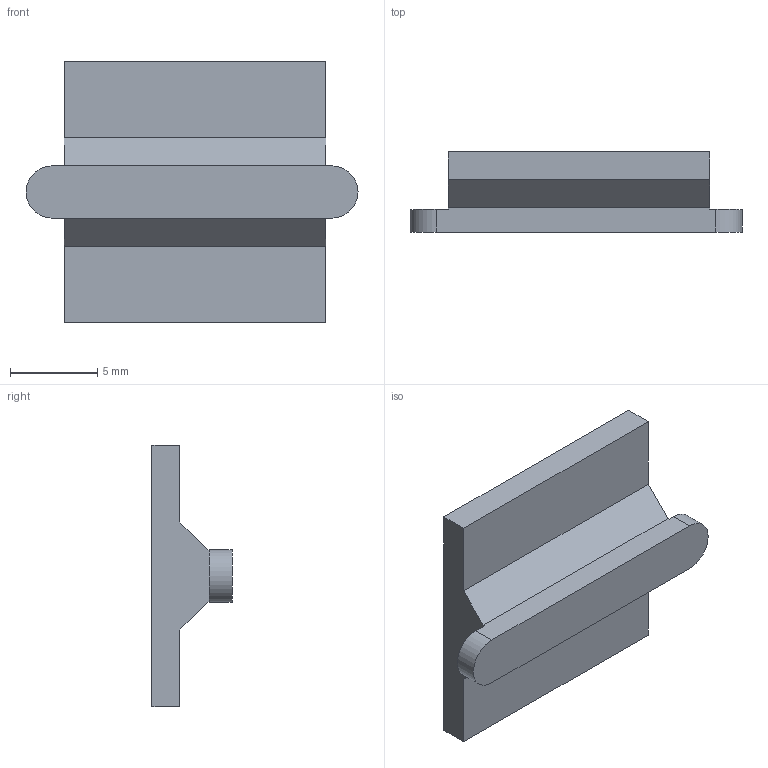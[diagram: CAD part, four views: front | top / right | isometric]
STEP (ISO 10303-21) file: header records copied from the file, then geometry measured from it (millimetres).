
FILE_DESCRIPTION (( 'STEP AP214' ), '1' );
FILE_NAME ('Block, Interface, Chip to TEC, Desktop, Biolink R02.STEP', '2026-07-28T14:54:40', ( '' ), ( '' ), 'SwSTEP 2.0', 'SolidWorks 2025', '' );
FILE_SCHEMA (( 'AUTOMOTIVE_DESIGN' ));
Length unit declared in the file: millimetre
Products named in the file (1): Block, Interface, Chip to TEC, Desktop, Biolink R02
Bounding box: 19.05 x 4.6 x 15 mm (x, y, z)
Volume: 526.4 mm3; surface area: 703.7 mm2
Topology: 1 solids, 1 shells, 20 faces, 52 edges, 33 vertices
Faces by surface type: plane 14, cylinder 4, cone 2
Entity records: 617 total; most frequent: CARTESIAN_POINT 104, DIRECTION 100, ORIENTED_EDGE 100, EDGE_CURVE 50, LINE 42, VECTOR 42, VERTEX_POINT 33, AXIS2_PLACEMENT_3D 29
